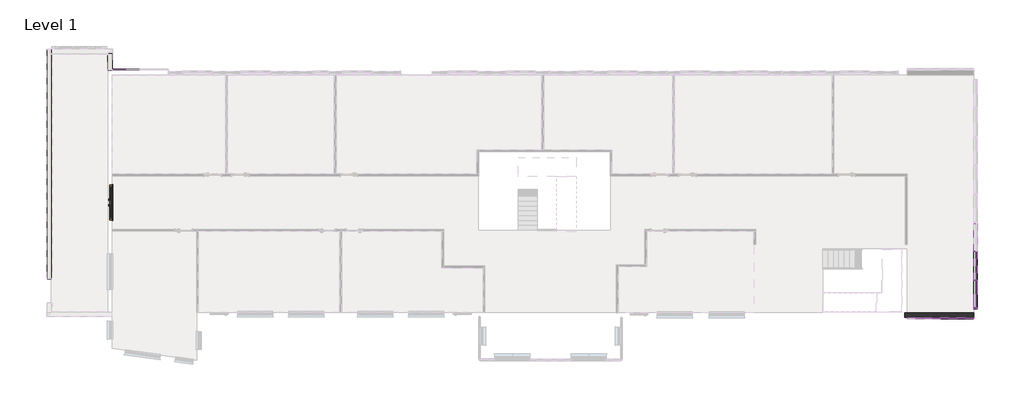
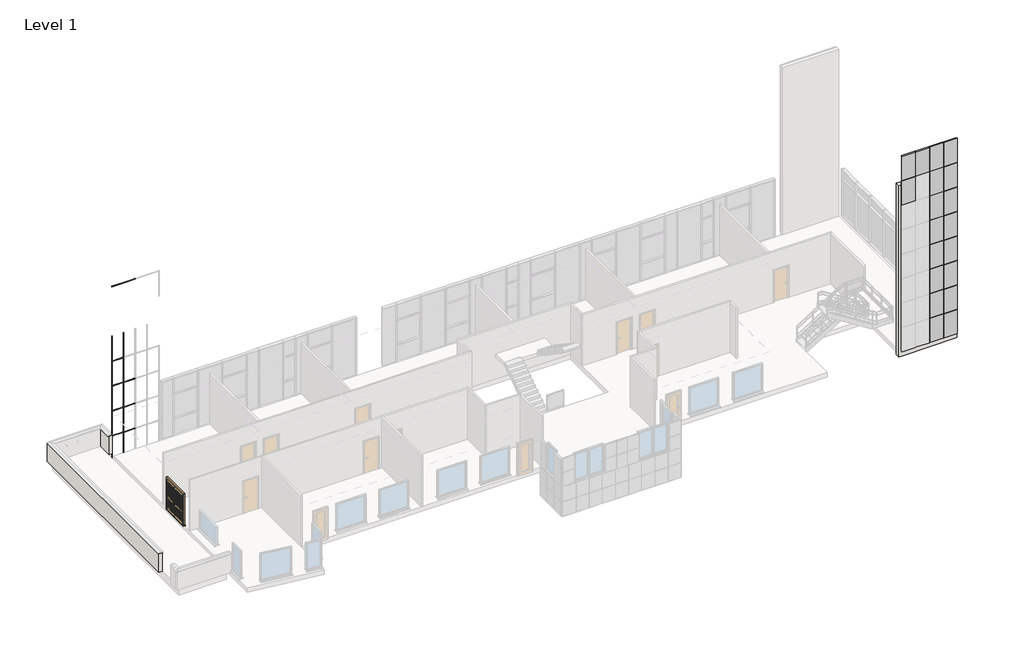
# One storey, part 3 of 10: 83 members, 23 plates, 3 walls, 1 door.
"""IFC4 building model written with IfcOpenShell, lengths in millimetres."""

from ifc_helpers import new_model, si_unit, frame, origin, place, context, project, spatial, polyline, outline, extrude, faceted_brep, transform, mapped, element, save
from components import doors_extdbl_louvre_w_transome_1810x2110mm_eca85ab6, rectangular_mullion_25x25mm_c4f882d5, rectangular_mullion_25x25mm_bd52b051, rectangular_mullion_25x25mm_aa09272d, rectangular_mullion_25x25mm_87b81b05, rectangular_mullion_25x25mm_c838776f, rectangular_mullion_25x25mm_c524c6a9, rectangular_mullion_25x25mm_a3ff25c1, rectangular_mullion_25x25mm_a7b21d2d, rectangular_mullion_25x25mm_c63ed219, rectangular_mullion_25x25mm_d2893cce, rectangular_mullion_25x25mm_a2025cdc, rectangular_mullion_25x25mm_730bac77, rectangular_mullion_25x25mm_b0a37639, rectangular_mullion_50x180mm_b21090a6, rectangular_mullion_50x180mm_c0bd3b18, rectangular_mullion_50x180mm_ec7f3dde, rectangular_mullion_50x180mm_ee9895d7, rectangular_mullion_50x180mm_69a7fca8, rectangular_mullion_50x180mm_43fab6d0, rectangular_mullion_50x180mm_84521c55, rectangular_mullion_50x180mm_f9fd6882, curtain_panels_solid_solid_panel_green_532d5a67, system_panel_glazed_7f1c0332, system_panel_glazed_68cc8840, system_panel_glazed_53acddae, system_panel_glazed_262eb8f8

model = new_model("IFC4")

# Units and contexts
model_context = context("Model", 3, world=origin())
ifc_project = project(units=[si_unit("LENGTHUNIT", "METRE", prefix="MILLI")], contexts=[model_context])

# Site, building, storey
site = spatial("IfcSite", under=ifc_project)
building = spatial("IfcBuilding", under=site)
storey = spatial("IfcBuildingStorey", under=building, Name="Level 1", Elevation=3750.0)

# Door
placement = place(None, origin())
doors_extdbl_louvre_w_transome_1810x2110mm_shape = doors_extdbl_louvre_w_transome_1810x2110mm_eca85ab6(model_context)
element("IfcDoor", 1, ObjectType="Doors_ExtDbl_Louvre_w-Transome : 1810x2110mm", at=placement, inside=storey, context=model_context, shape_type="MappedRepresentation", body=[
    mapped(doors_extdbl_louvre_w_transome_1810x2110mm_shape, transform((-1536.7223222, 2413.8986039, 3750.0), x_axis=(0.0, -1.0, 0.0), y_axis=(1.0, 0.0, 0.0), z_axis=(0.0, 0.0, 1.0))),
])

# Members
rectangular_mullion_25x25mm_shape = rectangular_mullion_25x25mm_c4f882d5(model_context)
element("IfcMember", 2, ObjectType="Rectangular Mullion : 25x25mm", at=placement, inside=storey, context=model_context, shape_type="MappedRepresentation", body=[
    mapped(rectangular_mullion_25x25mm_shape, transform((42240.5442365, -3560.0053409, 5353.125), x_axis=(0.0, 0.0, 1.0), y_axis=(0.0, 1.0, 0.0), z_axis=(-1.0, 0.0, 0.0))),
])
element("IfcMember", 3, ObjectType="Rectangular Mullion : 25x25mm", at=placement, inside=storey, context=model_context, shape_type="MappedRepresentation", body=[
    mapped(rectangular_mullion_25x25mm_shape, transform((41387.2942367, -3560.0053409, 5353.125), x_axis=(0.0, 0.0, 1.0), y_axis=(0.0, 1.0, 0.0), z_axis=(-1.0, 0.0, 0.0))),
])
element("IfcMember", 4, ObjectType="Rectangular Mullion : 25x25mm", at=placement, inside=storey, context=model_context, shape_type="MappedRepresentation", body=[
    mapped(rectangular_mullion_25x25mm_shape, transform((42240.5442365, -3560.0053409, 6943.75), x_axis=(0.0, 0.0, 1.0), y_axis=(0.0, 1.0, 0.0), z_axis=(-1.0, 0.0, 0.0))),
])
element("IfcMember", 5, ObjectType="Rectangular Mullion : 25x25mm", at=placement, inside=storey, context=model_context, shape_type="MappedRepresentation", body=[
    mapped(rectangular_mullion_25x25mm_shape, transform((41387.2942367, -3560.0053409, 6943.75), x_axis=(0.0, 0.0, 1.0), y_axis=(0.0, 1.0, 0.0), z_axis=(-1.0, 0.0, 0.0))),
])
element("IfcMember", 6, ObjectType="Rectangular Mullion : 25x25mm", at=placement, inside=storey, context=model_context, shape_type="MappedRepresentation", body=[
    mapped(rectangular_mullion_25x25mm_shape, transform((42240.5442365, -3560.0053409, 8534.375), x_axis=(0.0, 0.0, 1.0), y_axis=(0.0, 1.0, 0.0), z_axis=(-1.0, 0.0, 0.0))),
])
element("IfcMember", 7, ObjectType="Rectangular Mullion : 25x25mm", at=placement, inside=storey, context=model_context, shape_type="MappedRepresentation", body=[
    mapped(rectangular_mullion_25x25mm_shape, transform((41387.2942367, -3560.0053409, 8534.375), x_axis=(0.0, 0.0, 1.0), y_axis=(0.0, 1.0, 0.0), z_axis=(-1.0, 0.0, 0.0))),
])
element("IfcMember", 8, ObjectType="Rectangular Mullion : 25x25mm", at=placement, inside=storey, context=model_context, shape_type="MappedRepresentation", body=[
    mapped(rectangular_mullion_25x25mm_shape, transform((40534.0442368, -3560.0053409, 8534.375), x_axis=(0.0, 0.0, 1.0), y_axis=(0.0, 1.0, 0.0), z_axis=(-1.0, 0.0, 0.0))),
])
element("IfcMember", 9, ObjectType="Rectangular Mullion : 25x25mm", at=placement, inside=storey, context=model_context, shape_type="MappedRepresentation", body=[
    mapped(rectangular_mullion_25x25mm_shape, transform((42240.5442365, -3560.0053409, 10125.0), x_axis=(0.0, 0.0, 1.0), y_axis=(0.0, 1.0, 0.0), z_axis=(-1.0, 0.0, 0.0))),
])
element("IfcMember", 10, ObjectType="Rectangular Mullion : 25x25mm", at=placement, inside=storey, context=model_context, shape_type="MappedRepresentation", body=[
    mapped(rectangular_mullion_25x25mm_shape, transform((41387.2942367, -3560.0053409, 10125.0), x_axis=(0.0, 0.0, 1.0), y_axis=(0.0, 1.0, 0.0), z_axis=(-1.0, 0.0, 0.0))),
])
element("IfcMember", 11, ObjectType="Rectangular Mullion : 25x25mm", at=placement, inside=storey, context=model_context, shape_type="MappedRepresentation", body=[
    mapped(rectangular_mullion_25x25mm_shape, transform((40534.0442368, -3560.0053409, 10125.0), x_axis=(0.0, 0.0, 1.0), y_axis=(0.0, 1.0, 0.0), z_axis=(-1.0, 0.0, 0.0))),
])
element("IfcMember", 12, ObjectType="Rectangular Mullion : 25x25mm", at=placement, inside=storey, context=model_context, shape_type="MappedRepresentation", body=[
    mapped(rectangular_mullion_25x25mm_shape, transform((42240.5442365, -3560.0053409, 11715.625), x_axis=(0.0, 0.0, 1.0), y_axis=(0.0, 1.0, 0.0), z_axis=(-1.0, 0.0, 0.0))),
])
element("IfcMember", 13, ObjectType="Rectangular Mullion : 25x25mm", at=placement, inside=storey, context=model_context, shape_type="MappedRepresentation", body=[
    mapped(rectangular_mullion_25x25mm_shape, transform((41387.2942367, -3560.0053409, 11715.625), x_axis=(0.0, 0.0, 1.0), y_axis=(0.0, 1.0, 0.0), z_axis=(-1.0, 0.0, 0.0))),
])
element("IfcMember", 14, ObjectType="Rectangular Mullion : 25x25mm", at=placement, inside=storey, context=model_context, shape_type="MappedRepresentation", body=[
    mapped(rectangular_mullion_25x25mm_shape, transform((40534.0442368, -3560.0053409, 11715.625), x_axis=(0.0, 0.0, 1.0), y_axis=(0.0, 1.0, 0.0), z_axis=(-1.0, 0.0, 0.0))),
])
element("IfcMember", 15, ObjectType="Rectangular Mullion : 25x25mm", at=placement, inside=storey, context=model_context, shape_type="MappedRepresentation", body=[
    mapped(rectangular_mullion_25x25mm_shape, transform((42240.5442365, -3560.0053409, 13306.25), x_axis=(0.0, 0.0, 1.0), y_axis=(0.0, 1.0, 0.0), z_axis=(-1.0, 0.0, 0.0))),
])
element("IfcMember", 16, ObjectType="Rectangular Mullion : 25x25mm", at=placement, inside=storey, context=model_context, shape_type="MappedRepresentation", body=[
    mapped(rectangular_mullion_25x25mm_shape, transform((41387.2942367, -3560.0053409, 13306.25), x_axis=(0.0, 0.0, 1.0), y_axis=(0.0, 1.0, 0.0), z_axis=(-1.0, 0.0, 0.0))),
])
element("IfcMember", 17, ObjectType="Rectangular Mullion : 25x25mm", at=placement, inside=storey, context=model_context, shape_type="MappedRepresentation", body=[
    mapped(rectangular_mullion_25x25mm_shape, transform((40534.0442368, -3560.0053409, 13306.25), x_axis=(0.0, 0.0, 1.0), y_axis=(0.0, 1.0, 0.0), z_axis=(-1.0, 0.0, 0.0))),
])
element("IfcMember", 18, ObjectType="Rectangular Mullion : 25x25mm", at=placement, inside=storey, context=model_context, shape_type="MappedRepresentation", body=[
    mapped(rectangular_mullion_25x25mm_shape, transform((42240.5442365, -3560.0053409, 14896.875), x_axis=(0.0, 0.0, 1.0), y_axis=(0.0, 1.0, 0.0), z_axis=(-1.0, 0.0, 0.0))),
])
element("IfcMember", 19, ObjectType="Rectangular Mullion : 25x25mm", at=placement, inside=storey, context=model_context, shape_type="MappedRepresentation", body=[
    mapped(rectangular_mullion_25x25mm_shape, transform((41387.2942367, -3560.0053409, 14896.875), x_axis=(0.0, 0.0, 1.0), y_axis=(0.0, 1.0, 0.0), z_axis=(-1.0, 0.0, 0.0))),
])
element("IfcMember", 20, ObjectType="Rectangular Mullion : 25x25mm", at=placement, inside=storey, context=model_context, shape_type="MappedRepresentation", body=[
    mapped(rectangular_mullion_25x25mm_shape, transform((40534.0442368, -3560.0053409, 14896.875), x_axis=(0.0, 0.0, 1.0), y_axis=(0.0, 1.0, 0.0), z_axis=(-1.0, 0.0, 0.0))),
])
rectangular_mullion_25x25mm_2_shape = rectangular_mullion_25x25mm_bd52b051(model_context)
element("IfcMember", 21, ObjectType="Rectangular Mullion : 25x25mm", at=placement, inside=storey, context=model_context, shape_type="MappedRepresentation", body=[
    mapped(rectangular_mullion_25x25mm_2_shape, transform((-1429.2223222, 9282.4946591, 14600.0), x_axis=(0.0, 0.0, 1.0), y_axis=(0.0, 1.0, 0.0), z_axis=(-1.0, 0.0, 0.0))),
])
rectangular_mullion_25x25mm_3_shape = rectangular_mullion_25x25mm_aa09272d(model_context)
element("IfcMember", 22, ObjectType="Rectangular Mullion : 25x25mm", at=placement, inside=storey, context=model_context, shape_type="MappedRepresentation", body=[
    mapped(rectangular_mullion_25x25mm_3_shape, transform((-714.2181823, 9282.4946591, 14600.0), x_axis=(0.0, 0.0, 1.0), y_axis=(0.0, 1.0, 0.0), z_axis=(-1.0, 0.0, 0.0))),
])
element("IfcMember", 23, ObjectType="Rectangular Mullion : 25x25mm", at=placement, inside=storey, context=model_context, shape_type="MappedRepresentation", body=[
    mapped(rectangular_mullion_25x25mm_2_shape, transform((-714.2181823, 9282.4946591, 0.0), x_axis=(0.0, 0.0, -1.0), y_axis=(0.0, 1.0, 0.0), z_axis=(1.0, 0.0, 0.0))),
])
rectangular_mullion_25x25mm_4_shape = rectangular_mullion_25x25mm_87b81b05(model_context)
element("IfcMember", 24, ObjectType="Rectangular Mullion : 25x25mm", at=placement, inside=storey, context=model_context, shape_type="MappedRepresentation", body=[
    mapped(rectangular_mullion_25x25mm_4_shape, transform((-701.7181823, 9282.4946591, 1631.9444444), x_axis=(0.0, 0.0, 1.0), y_axis=(0.0, 1.0, 0.0), z_axis=(-1.0, 0.0, 0.0))),
])
element("IfcMember", 25, ObjectType="Rectangular Mullion : 25x25mm", at=placement, inside=storey, context=model_context, shape_type="MappedRepresentation", body=[
    mapped(rectangular_mullion_25x25mm_4_shape, transform((-701.7181823, 9282.4946591, 3251.3888889), x_axis=(0.0, 0.0, 1.0), y_axis=(0.0, 1.0, 0.0), z_axis=(-1.0, 0.0, 0.0))),
])
element("IfcMember", 26, ObjectType="Rectangular Mullion : 25x25mm", at=placement, inside=storey, context=model_context, shape_type="MappedRepresentation", body=[
    mapped(rectangular_mullion_25x25mm_4_shape, transform((-701.7181823, 9282.4946591, 4870.8333333), x_axis=(0.0, 0.0, 1.0), y_axis=(0.0, 1.0, 0.0), z_axis=(-1.0, 0.0, 0.0))),
])
element("IfcMember", 27, ObjectType="Rectangular Mullion : 25x25mm", at=placement, inside=storey, context=model_context, shape_type="MappedRepresentation", body=[
    mapped(rectangular_mullion_25x25mm_4_shape, transform((-701.7181823, 9282.4946591, 6490.2777778), x_axis=(0.0, 0.0, 1.0), y_axis=(0.0, 1.0, 0.0), z_axis=(-1.0, 0.0, 0.0))),
])
element("IfcMember", 28, ObjectType="Rectangular Mullion : 25x25mm", at=placement, inside=storey, context=model_context, shape_type="MappedRepresentation", body=[
    mapped(rectangular_mullion_25x25mm_4_shape, transform((-701.7181823, 9282.4946591, 8109.7222222), x_axis=(0.0, 0.0, 1.0), y_axis=(0.0, 1.0, 0.0), z_axis=(-1.0, 0.0, 0.0))),
])
rectangular_mullion_25x25mm_5_shape = rectangular_mullion_25x25mm_c838776f(model_context)
element("IfcMember", 29, ObjectType="Rectangular Mullion : 25x25mm", at=placement, inside=storey, context=model_context, shape_type="MappedRepresentation", body=[
    mapped(rectangular_mullion_25x25mm_5_shape, transform((-1404.2223222, 9282.4946591, 1631.9444444), x_axis=(0.0, 0.0, 1.0), y_axis=(0.0, 1.0, 0.0), z_axis=(-1.0, 0.0, 0.0))),
])
element("IfcMember", 30, ObjectType="Rectangular Mullion : 25x25mm", at=placement, inside=storey, context=model_context, shape_type="MappedRepresentation", body=[
    mapped(rectangular_mullion_25x25mm_5_shape, transform((-1404.2223222, 9282.4946591, 3251.3888889), x_axis=(0.0, 0.0, 1.0), y_axis=(0.0, 1.0, 0.0), z_axis=(-1.0, 0.0, 0.0))),
])
element("IfcMember", 31, ObjectType="Rectangular Mullion : 25x25mm", at=placement, inside=storey, context=model_context, shape_type="MappedRepresentation", body=[
    mapped(rectangular_mullion_25x25mm_5_shape, transform((-1404.2223222, 9282.4946591, 4870.8333333), x_axis=(0.0, 0.0, 1.0), y_axis=(0.0, 1.0, 0.0), z_axis=(-1.0, 0.0, 0.0))),
])
element("IfcMember", 32, ObjectType="Rectangular Mullion : 25x25mm", at=placement, inside=storey, context=model_context, shape_type="MappedRepresentation", body=[
    mapped(rectangular_mullion_25x25mm_5_shape, transform((-1404.2223222, 9282.4946591, 6490.2777778), x_axis=(0.0, 0.0, 1.0), y_axis=(0.0, 1.0, 0.0), z_axis=(-1.0, 0.0, 0.0))),
])
element("IfcMember", 33, ObjectType="Rectangular Mullion : 25x25mm", at=placement, inside=storey, context=model_context, shape_type="MappedRepresentation", body=[
    mapped(rectangular_mullion_25x25mm_5_shape, transform((-1404.2223222, 9282.4946591, 8109.7222222), x_axis=(0.0, 0.0, 1.0), y_axis=(0.0, 1.0, 0.0), z_axis=(-1.0, 0.0, 0.0))),
])
element("IfcMember", 34, ObjectType="Rectangular Mullion : 25x25mm", at=placement, inside=storey, context=model_context, shape_type="MappedRepresentation", body=[
    mapped(rectangular_mullion_25x25mm_5_shape, transform((-1404.2223222, 9282.4946591, 9729.1666667), x_axis=(0.0, 0.0, 1.0), y_axis=(0.0, 1.0, 0.0), z_axis=(-1.0, 0.0, 0.0))),
])
rectangular_mullion_25x25mm_6_shape = rectangular_mullion_25x25mm_c524c6a9(model_context)
element("IfcMember", 35, ObjectType="Rectangular Mullion : 25x25mm", at=placement, inside=storey, context=model_context, shape_type="MappedRepresentation", body=[
    mapped(rectangular_mullion_25x25mm_6_shape, transform((-714.2181823, 9282.4946591, 25.0), x_axis=(-1.0, 0.0, 0.0), y_axis=(0.0, 1.0, 0.0), z_axis=(0.0, 0.0, -1.0))),
])
rectangular_mullion_25x25mm_7_shape = rectangular_mullion_25x25mm_a3ff25c1(model_context)
element("IfcMember", 36, ObjectType="Rectangular Mullion : 25x25mm", at=placement, inside=storey, context=model_context, shape_type="MappedRepresentation", body=[
    mapped(rectangular_mullion_25x25mm_7_shape, transform((-714.2181823, 9282.4946591, 1631.9444444), x_axis=(-1.0, 0.0, 0.0), y_axis=(0.0, 1.0, 0.0), z_axis=(0.0, 0.0, -1.0))),
])
element("IfcMember", 37, ObjectType="Rectangular Mullion : 25x25mm", at=placement, inside=storey, context=model_context, shape_type="MappedRepresentation", body=[
    mapped(rectangular_mullion_25x25mm_7_shape, transform((-714.2181823, 9282.4946591, 3251.3888889), x_axis=(-1.0, 0.0, 0.0), y_axis=(0.0, 1.0, 0.0), z_axis=(0.0, 0.0, -1.0))),
])
element("IfcMember", 38, ObjectType="Rectangular Mullion : 25x25mm", at=placement, inside=storey, context=model_context, shape_type="MappedRepresentation", body=[
    mapped(rectangular_mullion_25x25mm_7_shape, transform((-714.2181823, 9282.4946591, 4870.8333333), x_axis=(-1.0, 0.0, 0.0), y_axis=(0.0, 1.0, 0.0), z_axis=(0.0, 0.0, -1.0))),
])
element("IfcMember", 39, ObjectType="Rectangular Mullion : 25x25mm", at=placement, inside=storey, context=model_context, shape_type="MappedRepresentation", body=[
    mapped(rectangular_mullion_25x25mm_7_shape, transform((-714.2181823, 9282.4946591, 6490.2777778), x_axis=(-1.0, 0.0, 0.0), y_axis=(0.0, 1.0, 0.0), z_axis=(0.0, 0.0, -1.0))),
])
element("IfcMember", 40, ObjectType="Rectangular Mullion : 25x25mm", at=placement, inside=storey, context=model_context, shape_type="MappedRepresentation", body=[
    mapped(rectangular_mullion_25x25mm_7_shape, transform((-714.2181823, 9282.4946591, 8109.7222222), x_axis=(-1.0, 0.0, 0.0), y_axis=(0.0, 1.0, 0.0), z_axis=(0.0, 0.0, -1.0))),
])
element("IfcMember", 41, ObjectType="Rectangular Mullion : 25x25mm", at=placement, inside=storey, context=model_context, shape_type="MappedRepresentation", body=[
    mapped(rectangular_mullion_25x25mm_7_shape, transform((-714.2181823, 9282.4946591, 9729.1666667), x_axis=(-1.0, 0.0, 0.0), y_axis=(0.0, 1.0, 0.0), z_axis=(0.0, 0.0, -1.0))),
])
rectangular_mullion_25x25mm_8_shape = rectangular_mullion_25x25mm_a7b21d2d(model_context)
element("IfcMember", 42, ObjectType="Rectangular Mullion : 25x25mm", at=placement, inside=storey, context=model_context, shape_type="MappedRepresentation", body=[
    mapped(rectangular_mullion_25x25mm_8_shape, transform((-1429.2223222, 9282.4946591, 25.0), x_axis=(-1.0, 0.0, 0.0), y_axis=(0.0, 1.0, 0.0), z_axis=(0.0, 0.0, -1.0))),
])
rectangular_mullion_25x25mm_9_shape = rectangular_mullion_25x25mm_c63ed219(model_context)
element("IfcMember", 43, ObjectType="Rectangular Mullion : 25x25mm", at=placement, inside=storey, context=model_context, shape_type="MappedRepresentation", body=[
    mapped(rectangular_mullion_25x25mm_9_shape, transform((-1429.2223222, 9282.4946591, 1631.9444444), x_axis=(-1.0, 0.0, 0.0), y_axis=(0.0, 1.0, 0.0), z_axis=(0.0, 0.0, -1.0))),
])
element("IfcMember", 44, ObjectType="Rectangular Mullion : 25x25mm", at=placement, inside=storey, context=model_context, shape_type="MappedRepresentation", body=[
    mapped(rectangular_mullion_25x25mm_9_shape, transform((-1429.2223222, 9282.4946591, 3251.3888889), x_axis=(-1.0, 0.0, 0.0), y_axis=(0.0, 1.0, 0.0), z_axis=(0.0, 0.0, -1.0))),
])
element("IfcMember", 45, ObjectType="Rectangular Mullion : 25x25mm", at=placement, inside=storey, context=model_context, shape_type="MappedRepresentation", body=[
    mapped(rectangular_mullion_25x25mm_9_shape, transform((-1429.2223222, 9282.4946591, 4870.8333333), x_axis=(-1.0, 0.0, 0.0), y_axis=(0.0, 1.0, 0.0), z_axis=(0.0, 0.0, -1.0))),
])
element("IfcMember", 46, ObjectType="Rectangular Mullion : 25x25mm", at=placement, inside=storey, context=model_context, shape_type="MappedRepresentation", body=[
    mapped(rectangular_mullion_25x25mm_9_shape, transform((-1429.2223222, 9282.4946591, 6490.2777778), x_axis=(-1.0, 0.0, 0.0), y_axis=(0.0, 1.0, 0.0), z_axis=(0.0, 0.0, -1.0))),
])
element("IfcMember", 47, ObjectType="Rectangular Mullion : 25x25mm", at=placement, inside=storey, context=model_context, shape_type="MappedRepresentation", body=[
    mapped(rectangular_mullion_25x25mm_9_shape, transform((-1429.2223222, 9282.4946591, 8109.7222222), x_axis=(-1.0, 0.0, 0.0), y_axis=(0.0, 1.0, 0.0), z_axis=(0.0, 0.0, -1.0))),
])
element("IfcMember", 48, ObjectType="Rectangular Mullion : 25x25mm", at=placement, inside=storey, context=model_context, shape_type="MappedRepresentation", body=[
    mapped(rectangular_mullion_25x25mm_9_shape, transform((-1429.2223222, 9282.4946591, 9729.1666667), x_axis=(-1.0, 0.0, 0.0), y_axis=(0.0, 1.0, 0.0), z_axis=(0.0, 0.0, -1.0))),
])
rectangular_mullion_25x25mm_10_shape = rectangular_mullion_25x25mm_d2893cce(model_context)
element("IfcMember", 49, ObjectType="Rectangular Mullion : 25x25mm", at=placement, inside=storey, context=model_context, shape_type="MappedRepresentation", body=[
    mapped(rectangular_mullion_25x25mm_10_shape, transform((42228.0442365, -3560.0053409, 5353.125), x_axis=(-1.0, 0.0, 0.0), y_axis=(0.0, 1.0, 0.0), z_axis=(0.0, 0.0, -1.0))),
])
element("IfcMember", 50, ObjectType="Rectangular Mullion : 25x25mm", at=placement, inside=storey, context=model_context, shape_type="MappedRepresentation", body=[
    mapped(rectangular_mullion_25x25mm_10_shape, transform((42228.0442365, -3560.0053409, 6943.75), x_axis=(-1.0, 0.0, 0.0), y_axis=(0.0, 1.0, 0.0), z_axis=(0.0, 0.0, -1.0))),
])
element("IfcMember", 51, ObjectType="Rectangular Mullion : 25x25mm", at=placement, inside=storey, context=model_context, shape_type="MappedRepresentation", body=[
    mapped(rectangular_mullion_25x25mm_10_shape, transform((41374.7942367, -3560.0053409, 5353.125), x_axis=(-1.0, 0.0, 0.0), y_axis=(0.0, 1.0, 0.0), z_axis=(0.0, 0.0, -1.0))),
])
element("IfcMember", 52, ObjectType="Rectangular Mullion : 25x25mm", at=placement, inside=storey, context=model_context, shape_type="MappedRepresentation", body=[
    mapped(rectangular_mullion_25x25mm_10_shape, transform((41374.7942367, -3560.0053409, 6943.75), x_axis=(-1.0, 0.0, 0.0), y_axis=(0.0, 1.0, 0.0), z_axis=(0.0, 0.0, -1.0))),
])
element("IfcMember", 53, ObjectType="Rectangular Mullion : 25x25mm", at=placement, inside=storey, context=model_context, shape_type="MappedRepresentation", body=[
    mapped(rectangular_mullion_25x25mm_10_shape, transform((42228.0442365, -3560.0053409, 8534.375), x_axis=(-1.0, 0.0, 0.0), y_axis=(0.0, 1.0, 0.0), z_axis=(0.0, 0.0, -1.0))),
])
element("IfcMember", 54, ObjectType="Rectangular Mullion : 25x25mm", at=placement, inside=storey, context=model_context, shape_type="MappedRepresentation", body=[
    mapped(rectangular_mullion_25x25mm_10_shape, transform((42228.0442365, -3560.0053409, 10125.0), x_axis=(-1.0, 0.0, 0.0), y_axis=(0.0, 1.0, 0.0), z_axis=(0.0, 0.0, -1.0))),
])
element("IfcMember", 55, ObjectType="Rectangular Mullion : 25x25mm", at=placement, inside=storey, context=model_context, shape_type="MappedRepresentation", body=[
    mapped(rectangular_mullion_25x25mm_10_shape, transform((42228.0442365, -3560.0053409, 11715.625), x_axis=(-1.0, 0.0, 0.0), y_axis=(0.0, 1.0, 0.0), z_axis=(0.0, 0.0, -1.0))),
])
element("IfcMember", 56, ObjectType="Rectangular Mullion : 25x25mm", at=placement, inside=storey, context=model_context, shape_type="MappedRepresentation", body=[
    mapped(rectangular_mullion_25x25mm_10_shape, transform((42228.0442365, -3560.0053409, 13306.25), x_axis=(-1.0, 0.0, 0.0), y_axis=(0.0, 1.0, 0.0), z_axis=(0.0, 0.0, -1.0))),
])
element("IfcMember", 57, ObjectType="Rectangular Mullion : 25x25mm", at=placement, inside=storey, context=model_context, shape_type="MappedRepresentation", body=[
    mapped(rectangular_mullion_25x25mm_10_shape, transform((41374.7942367, -3560.0053409, 8534.375), x_axis=(-1.0, 0.0, 0.0), y_axis=(0.0, 1.0, 0.0), z_axis=(0.0, 0.0, -1.0))),
])
element("IfcMember", 58, ObjectType="Rectangular Mullion : 25x25mm", at=placement, inside=storey, context=model_context, shape_type="MappedRepresentation", body=[
    mapped(rectangular_mullion_25x25mm_10_shape, transform((41374.7942367, -3560.0053409, 10125.0), x_axis=(-1.0, 0.0, 0.0), y_axis=(0.0, 1.0, 0.0), z_axis=(0.0, 0.0, -1.0))),
])
element("IfcMember", 59, ObjectType="Rectangular Mullion : 25x25mm", at=placement, inside=storey, context=model_context, shape_type="MappedRepresentation", body=[
    mapped(rectangular_mullion_25x25mm_10_shape, transform((41374.7942367, -3560.0053409, 11715.625), x_axis=(-1.0, 0.0, 0.0), y_axis=(0.0, 1.0, 0.0), z_axis=(0.0, 0.0, -1.0))),
])
element("IfcMember", 60, ObjectType="Rectangular Mullion : 25x25mm", at=placement, inside=storey, context=model_context, shape_type="MappedRepresentation", body=[
    mapped(rectangular_mullion_25x25mm_10_shape, transform((41374.7942367, -3560.0053409, 13306.25), x_axis=(-1.0, 0.0, 0.0), y_axis=(0.0, 1.0, 0.0), z_axis=(0.0, 0.0, -1.0))),
])
element("IfcMember", 61, ObjectType="Rectangular Mullion : 25x25mm", at=placement, inside=storey, context=model_context, shape_type="MappedRepresentation", body=[
    mapped(rectangular_mullion_25x25mm_10_shape, transform((40521.5442368, -3560.0053409, 8534.375), x_axis=(-1.0, 0.0, 0.0), y_axis=(0.0, 1.0, 0.0), z_axis=(0.0, 0.0, -1.0))),
])
element("IfcMember", 62, ObjectType="Rectangular Mullion : 25x25mm", at=placement, inside=storey, context=model_context, shape_type="MappedRepresentation", body=[
    mapped(rectangular_mullion_25x25mm_10_shape, transform((40521.5442368, -3560.0053409, 10125.0), x_axis=(-1.0, 0.0, 0.0), y_axis=(0.0, 1.0, 0.0), z_axis=(0.0, 0.0, -1.0))),
])
element("IfcMember", 63, ObjectType="Rectangular Mullion : 25x25mm", at=placement, inside=storey, context=model_context, shape_type="MappedRepresentation", body=[
    mapped(rectangular_mullion_25x25mm_10_shape, transform((40521.5442368, -3560.0053409, 11715.625), x_axis=(-1.0, 0.0, 0.0), y_axis=(0.0, 1.0, 0.0), z_axis=(0.0, 0.0, -1.0))),
])
element("IfcMember", 64, ObjectType="Rectangular Mullion : 25x25mm", at=placement, inside=storey, context=model_context, shape_type="MappedRepresentation", body=[
    mapped(rectangular_mullion_25x25mm_10_shape, transform((40521.5442368, -3560.0053409, 13306.25), x_axis=(-1.0, 0.0, 0.0), y_axis=(0.0, 1.0, 0.0), z_axis=(0.0, 0.0, -1.0))),
])
rectangular_mullion_25x25mm_11_shape = rectangular_mullion_25x25mm_a2025cdc(model_context)
element("IfcMember", 65, ObjectType="Rectangular Mullion : 25x25mm", at=placement, inside=storey, context=model_context, shape_type="MappedRepresentation", body=[
    mapped(rectangular_mullion_25x25mm_11_shape, transform((43093.7942367, -3560.0053409, 5353.125), x_axis=(1.0, 0.0, 0.0), y_axis=(0.0, 1.0, 0.0), z_axis=(0.0, 0.0, 1.0))),
])
rectangular_mullion_25x25mm_12_shape = rectangular_mullion_25x25mm_730bac77(model_context)
element("IfcMember", 66, ObjectType="Rectangular Mullion : 25x25mm", at=placement, inside=storey, context=model_context, shape_type="MappedRepresentation", body=[
    mapped(rectangular_mullion_25x25mm_12_shape, transform((43093.7942367, -3560.0053409, 6943.75), x_axis=(1.0, 0.0, 0.0), y_axis=(0.0, 1.0, 0.0), z_axis=(0.0, 0.0, 1.0))),
])
element("IfcMember", 67, ObjectType="Rectangular Mullion : 25x25mm", at=placement, inside=storey, context=model_context, shape_type="MappedRepresentation", body=[
    mapped(rectangular_mullion_25x25mm_12_shape, transform((43093.7942367, -3560.0053409, 8534.375), x_axis=(1.0, 0.0, 0.0), y_axis=(0.0, 1.0, 0.0), z_axis=(0.0, 0.0, 1.0))),
])
element("IfcMember", 68, ObjectType="Rectangular Mullion : 25x25mm", at=placement, inside=storey, context=model_context, shape_type="MappedRepresentation", body=[
    mapped(rectangular_mullion_25x25mm_12_shape, transform((43093.7942367, -3560.0053409, 10125.0), x_axis=(1.0, 0.0, 0.0), y_axis=(0.0, 1.0, 0.0), z_axis=(0.0, 0.0, 1.0))),
])
element("IfcMember", 69, ObjectType="Rectangular Mullion : 25x25mm", at=placement, inside=storey, context=model_context, shape_type="MappedRepresentation", body=[
    mapped(rectangular_mullion_25x25mm_12_shape, transform((43093.7942367, -3560.0053409, 11715.625), x_axis=(1.0, 0.0, 0.0), y_axis=(0.0, 1.0, 0.0), z_axis=(0.0, 0.0, 1.0))),
])
element("IfcMember", 70, ObjectType="Rectangular Mullion : 25x25mm", at=placement, inside=storey, context=model_context, shape_type="MappedRepresentation", body=[
    mapped(rectangular_mullion_25x25mm_12_shape, transform((43093.7942367, -3560.0053409, 13306.25), x_axis=(1.0, 0.0, 0.0), y_axis=(0.0, 1.0, 0.0), z_axis=(0.0, 0.0, 1.0))),
])
element("IfcMember", 71, ObjectType="Rectangular Mullion : 25x25mm", at=placement, inside=storey, context=model_context, shape_type="MappedRepresentation", body=[
    mapped(rectangular_mullion_25x25mm_12_shape, transform((43093.7942367, -3560.0053409, 14896.875), x_axis=(1.0, 0.0, 0.0), y_axis=(0.0, 1.0, 0.0), z_axis=(0.0, 0.0, 1.0))),
])
rectangular_mullion_25x25mm_13_shape = rectangular_mullion_25x25mm_b0a37639(model_context)
element("IfcMember", 72, ObjectType="Rectangular Mullion : 25x25mm", at=placement, inside=storey, context=model_context, shape_type="MappedRepresentation", body=[
    mapped(rectangular_mullion_25x25mm_13_shape, transform((42228.0442365, -3560.0053409, 14896.875), x_axis=(-1.0, 0.0, 0.0), y_axis=(0.0, 1.0, 0.0), z_axis=(0.0, 0.0, -1.0))),
])
element("IfcMember", 73, ObjectType="Rectangular Mullion : 25x25mm", at=placement, inside=storey, context=model_context, shape_type="MappedRepresentation", body=[
    mapped(rectangular_mullion_25x25mm_13_shape, transform((41374.7942367, -3560.0053409, 14896.875), x_axis=(-1.0, 0.0, 0.0), y_axis=(0.0, 1.0, 0.0), z_axis=(0.0, 0.0, -1.0))),
])
element("IfcMember", 74, ObjectType="Rectangular Mullion : 25x25mm", at=placement, inside=storey, context=model_context, shape_type="MappedRepresentation", body=[
    mapped(rectangular_mullion_25x25mm_13_shape, transform((40521.5442368, -3560.0053409, 14896.875), x_axis=(-1.0, 0.0, 0.0), y_axis=(0.0, 1.0, 0.0), z_axis=(0.0, 0.0, -1.0))),
])
rectangular_mullion_50x180mm_shape = rectangular_mullion_50x180mm_b21090a6(model_context)
element("IfcMember", 75, ObjectType="Rectangular Mullion : 50x180mm", at=placement, inside=storey, context=model_context, shape_type="MappedRepresentation", body=[
    mapped(rectangular_mullion_50x180mm_shape, transform((43193.2942367, -3090.0053409, 3900.0), x_axis=(0.0, -1.0, 0.0), y_axis=(-1.0, 0.0, 0.0), z_axis=(0.0, 0.0, -1.0))),
])
rectangular_mullion_50x180mm_2_shape = rectangular_mullion_50x180mm_c0bd3b18(model_context)
element("IfcMember", 76, ObjectType="Rectangular Mullion : 50x180mm", at=placement, inside=storey, context=model_context, shape_type="MappedRepresentation", body=[
    mapped(rectangular_mullion_50x180mm_2_shape, transform((43193.2942367, -3040.0053409, 6965.0), x_axis=(0.0, 0.0, 1.0), y_axis=(-1.0, 0.0, 0.0), z_axis=(0.0, -1.0, 0.0))),
])
rectangular_mullion_50x180mm_3_shape = rectangular_mullion_50x180mm_ec7f3dde(model_context)
element("IfcMember", 77, ObjectType="Rectangular Mullion : 50x180mm", at=placement, inside=storey, context=model_context, shape_type="MappedRepresentation", body=[
    mapped(rectangular_mullion_50x180mm_3_shape, transform((43193.2942367, -124.3803407, 6300.0), x_axis=(0.0, 0.0, 1.0), y_axis=(-1.0, 0.0, 0.0), z_axis=(0.0, -1.0, 0.0))),
])
rectangular_mullion_50x180mm_4_shape = rectangular_mullion_50x180mm_ee9895d7(model_context)
element("IfcMember", 78, ObjectType="Rectangular Mullion : 50x180mm", at=placement, inside=storey, context=model_context, shape_type="MappedRepresentation", body=[
    mapped(rectangular_mullion_50x180mm_4_shape, transform((43193.2942367, -124.3803407, 6965.0), x_axis=(0.0, 0.0, 1.0), y_axis=(-1.0, 0.0, 0.0), z_axis=(0.0, -1.0, 0.0))),
])
rectangular_mullion_50x180mm_5_shape = rectangular_mullion_50x180mm_69a7fca8(model_context)
element("IfcMember", 79, ObjectType="Rectangular Mullion : 50x180mm", at=placement, inside=storey, context=model_context, shape_type="MappedRepresentation", body=[
    mapped(rectangular_mullion_50x180mm_5_shape, transform((43193.2942367, -1607.1928406, 6965.0), x_axis=(0.0, 0.0, 1.0), y_axis=(-1.0, 0.0, 0.0), z_axis=(0.0, -1.0, 0.0))),
])
element("IfcMember", 80, ObjectType="Rectangular Mullion : 50x180mm", at=placement, inside=storey, context=model_context, shape_type="MappedRepresentation", body=[
    mapped(rectangular_mullion_50x180mm_5_shape, transform((43193.2942367, -124.3803407, 3900.0), x_axis=(0.0, 0.0, -1.0), y_axis=(-1.0, 0.0, 0.0), z_axis=(0.0, 1.0, 0.0))),
])
element("IfcMember", 81, ObjectType="Rectangular Mullion : 50x180mm", at=placement, inside=storey, context=model_context, shape_type="MappedRepresentation", body=[
    mapped(rectangular_mullion_50x180mm_2_shape, transform((43193.2942367, -1607.1928406, 3900.0), x_axis=(0.0, 0.0, -1.0), y_axis=(-1.0, 0.0, 0.0), z_axis=(0.0, 1.0, 0.0))),
])
rectangular_mullion_50x180mm_6_shape = rectangular_mullion_50x180mm_43fab6d0(model_context)
element("IfcMember", 82, ObjectType="Rectangular Mullion : 50x180mm", at=placement, inside=storey, context=model_context, shape_type="MappedRepresentation", body=[
    mapped(rectangular_mullion_50x180mm_6_shape, transform((43193.2942367, -1607.1928406, 6300.0), x_axis=(0.0, 0.0, 1.0), y_axis=(-1.0, 0.0, 0.0), z_axis=(0.0, -1.0, 0.0))),
])
rectangular_mullion_50x180mm_7_shape = rectangular_mullion_50x180mm_84521c55(model_context)
element("IfcMember", 83, ObjectType="Rectangular Mullion : 50x180mm", at=placement, inside=storey, context=model_context, shape_type="MappedRepresentation", body=[
    mapped(rectangular_mullion_50x180mm_7_shape, transform((43193.2942367, -3040.0053409, 6300.0), x_axis=(0.0, 0.0, 1.0), y_axis=(-1.0, 0.0, 0.0), z_axis=(0.0, -1.0, 0.0))),
])
rectangular_mullion_50x180mm_8_shape = rectangular_mullion_50x180mm_f9fd6882(model_context)
element("IfcMember", 84, ObjectType="Rectangular Mullion : 50x180mm", at=placement, inside=storey, context=model_context, shape_type="MappedRepresentation", body=[
    mapped(rectangular_mullion_50x180mm_8_shape, transform((43193.2942367, -3090.0053409, 6300.0), x_axis=(0.0, -1.0, 0.0), y_axis=(-1.0, 0.0, 0.0), z_axis=(0.0, 0.0, -1.0))),
])

# Plates
curtain_panels_solid_solid_panel_green_shape = curtain_panels_solid_solid_panel_green_532d5a67(model_context)
element("IfcPlate", 85, ObjectType="Curtain_Panels_Solid : Solid_Panel_Green", at=placement, inside=storey, context=model_context, shape_type="MappedRepresentation", body=[
    mapped(curtain_panels_solid_solid_panel_green_shape, transform((42654.6692366, -3560.0053409, 3775.0), x_axis=(-1.0, 0.0, 0.0), y_axis=(0.0, -1.0, 0.0), z_axis=(0.0, 0.0, 1.0))),
])
element("IfcPlate", 86, ObjectType="Curtain_Panels_Solid : Solid_Panel_Green", at=placement, inside=storey, context=model_context, shape_type="MappedRepresentation", body=[
    mapped(curtain_panels_solid_solid_panel_green_shape, transform((41801.4192366, -3560.0053409, 3775.0), x_axis=(-1.0, 0.0, 0.0), y_axis=(0.0, -1.0, 0.0), z_axis=(0.0, 0.0, 1.0))),
])
element("IfcPlate", 87, ObjectType="Curtain_Panels_Solid : Solid_Panel_Green", at=placement, inside=storey, context=model_context, shape_type="MappedRepresentation", body=[
    mapped(curtain_panels_solid_solid_panel_green_shape, transform((42654.6692366, -3560.0053409, 5365.625), x_axis=(-1.0, 0.0, 0.0), y_axis=(0.0, -1.0, 0.0), z_axis=(0.0, 0.0, 1.0))),
])
element("IfcPlate", 88, ObjectType="Curtain_Panels_Solid : Solid_Panel_Green", at=placement, inside=storey, context=model_context, shape_type="MappedRepresentation", body=[
    mapped(curtain_panels_solid_solid_panel_green_shape, transform((41801.4192366, -3560.0053409, 5365.625), x_axis=(-1.0, 0.0, 0.0), y_axis=(0.0, -1.0, 0.0), z_axis=(0.0, 0.0, 1.0))),
])
element("IfcPlate", 89, ObjectType="Curtain_Panels_Solid : Solid_Panel_Green", at=placement, inside=storey, context=model_context, shape_type="MappedRepresentation", body=[
    mapped(curtain_panels_solid_solid_panel_green_shape, transform((42654.6692366, -3560.0053409, 6956.25), x_axis=(-1.0, 0.0, 0.0), y_axis=(0.0, -1.0, 0.0), z_axis=(0.0, 0.0, 1.0))),
])
element("IfcPlate", 90, ObjectType="Curtain_Panels_Solid : Solid_Panel_Green", at=placement, inside=storey, context=model_context, shape_type="MappedRepresentation", body=[
    mapped(curtain_panels_solid_solid_panel_green_shape, transform((41801.4192366, -3560.0053409, 6956.25), x_axis=(-1.0, 0.0, 0.0), y_axis=(0.0, -1.0, 0.0), z_axis=(0.0, 0.0, 1.0))),
])
element("IfcPlate", 91, ObjectType="Curtain_Panels_Solid : Solid_Panel_Green", at=placement, inside=storey, context=model_context, shape_type="MappedRepresentation", body=[
    mapped(curtain_panels_solid_solid_panel_green_shape, transform((42654.6692366, -3560.0053409, 8546.875), x_axis=(-1.0, 0.0, 0.0), y_axis=(0.0, -1.0, 0.0), z_axis=(0.0, 0.0, 1.0))),
])
element("IfcPlate", 92, ObjectType="Curtain_Panels_Solid : Solid_Panel_Green", at=placement, inside=storey, context=model_context, shape_type="MappedRepresentation", body=[
    mapped(curtain_panels_solid_solid_panel_green_shape, transform((41801.4192366, -3560.0053409, 8546.875), x_axis=(-1.0, 0.0, 0.0), y_axis=(0.0, -1.0, 0.0), z_axis=(0.0, 0.0, 1.0))),
])
element("IfcPlate", 93, ObjectType="Curtain_Panels_Solid : Solid_Panel_Green", at=placement, inside=storey, context=model_context, shape_type="MappedRepresentation", body=[
    mapped(curtain_panels_solid_solid_panel_green_shape, transform((42654.6692366, -3560.0053409, 10137.5), x_axis=(-1.0, 0.0, 0.0), y_axis=(0.0, -1.0, 0.0), z_axis=(0.0, 0.0, 1.0))),
])
element("IfcPlate", 94, ObjectType="Curtain_Panels_Solid : Solid_Panel_Green", at=placement, inside=storey, context=model_context, shape_type="MappedRepresentation", body=[
    mapped(curtain_panels_solid_solid_panel_green_shape, transform((41801.4192366, -3560.0053409, 10137.5), x_axis=(-1.0, 0.0, 0.0), y_axis=(0.0, -1.0, 0.0), z_axis=(0.0, 0.0, 1.0))),
])
element("IfcPlate", 95, ObjectType="Curtain_Panels_Solid : Solid_Panel_Green", at=placement, inside=storey, context=model_context, shape_type="MappedRepresentation", body=[
    mapped(curtain_panels_solid_solid_panel_green_shape, transform((42654.6692366, -3560.0053409, 11728.125), x_axis=(-1.0, 0.0, 0.0), y_axis=(0.0, -1.0, 0.0), z_axis=(0.0, 0.0, 1.0))),
])
element("IfcPlate", 96, ObjectType="Curtain_Panels_Solid : Solid_Panel_Green", at=placement, inside=storey, context=model_context, shape_type="MappedRepresentation", body=[
    mapped(curtain_panels_solid_solid_panel_green_shape, transform((41801.4192366, -3560.0053409, 11728.125), x_axis=(-1.0, 0.0, 0.0), y_axis=(0.0, -1.0, 0.0), z_axis=(0.0, 0.0, 1.0))),
])
element("IfcPlate", 97, ObjectType="Curtain_Panels_Solid : Solid_Panel_Green", at=placement, inside=storey, context=model_context, shape_type="MappedRepresentation", body=[
    mapped(curtain_panels_solid_solid_panel_green_shape, transform((42654.6692366, -3560.0053409, 13318.75), x_axis=(-1.0, 0.0, 0.0), y_axis=(0.0, -1.0, 0.0), z_axis=(0.0, 0.0, 1.0))),
])
element("IfcPlate", 98, ObjectType="Curtain_Panels_Solid : Solid_Panel_Green", at=placement, inside=storey, context=model_context, shape_type="MappedRepresentation", body=[
    mapped(curtain_panels_solid_solid_panel_green_shape, transform((41801.4192366, -3560.0053409, 13318.75), x_axis=(-1.0, 0.0, 0.0), y_axis=(0.0, -1.0, 0.0), z_axis=(0.0, 0.0, 1.0))),
])
element("IfcPlate", 99, ObjectType="Curtain_Panels_Solid : Solid_Panel_Green", at=placement, inside=storey, context=model_context, shape_type="MappedRepresentation", body=[
    mapped(curtain_panels_solid_solid_panel_green_shape, transform((40094.9192368, -3560.0053409, 13318.75), x_axis=(-1.0, 0.0, 0.0), y_axis=(0.0, -1.0, 0.0), z_axis=(0.0, 0.0, 1.0))),
])
element("IfcPlate", 100, ObjectType="Curtain_Panels_Solid : Solid_Panel_Green", at=placement, inside=storey, context=model_context, shape_type="MappedRepresentation", body=[
    mapped(curtain_panels_solid_solid_panel_green_shape, transform((42654.6692366, -3560.0053409, 14909.375), x_axis=(-1.0, 0.0, 0.0), y_axis=(0.0, -1.0, 0.0), z_axis=(0.0, 0.0, 1.0))),
])
element("IfcPlate", 101, ObjectType="Curtain_Panels_Solid : Solid_Panel_Green", at=placement, inside=storey, context=model_context, shape_type="MappedRepresentation", body=[
    mapped(curtain_panels_solid_solid_panel_green_shape, transform((41801.4192366, -3560.0053409, 14909.375), x_axis=(-1.0, 0.0, 0.0), y_axis=(0.0, -1.0, 0.0), z_axis=(0.0, 0.0, 1.0))),
])
element("IfcPlate", 102, ObjectType="Curtain_Panels_Solid : Solid_Panel_Green", at=placement, inside=storey, context=model_context, shape_type="MappedRepresentation", body=[
    mapped(curtain_panels_solid_solid_panel_green_shape, transform((40948.1692368, -3560.0053409, 14909.375), x_axis=(-1.0, 0.0, 0.0), y_axis=(0.0, -1.0, 0.0), z_axis=(0.0, 0.0, 1.0))),
])
element("IfcPlate", 103, ObjectType="Curtain_Panels_Solid : Solid_Panel_Green", at=placement, inside=storey, context=model_context, shape_type="MappedRepresentation", body=[
    mapped(curtain_panels_solid_solid_panel_green_shape, transform((40094.9192368, -3560.0053409, 14909.375), x_axis=(-1.0, 0.0, 0.0), y_axis=(0.0, -1.0, 0.0), z_axis=(0.0, 0.0, 1.0))),
])
system_panel_glazed_shape = system_panel_glazed_7f1c0332(model_context)
element("IfcPlate", 104, ObjectType="System Panel : Glazed", at=placement, inside=storey, context=model_context, shape_type="MappedRepresentation", body=[
    mapped(system_panel_glazed_shape, transform((43193.2942367, -2323.5990907, 3950.0), x_axis=(0.0, -1.0, 0.0), y_axis=(1.0, 0.0, 0.0), z_axis=(0.0, 0.0, 1.0))),
])
system_panel_glazed_2_shape = system_panel_glazed_68cc8840(model_context)
element("IfcPlate", 105, ObjectType="System Panel : Glazed", at=placement, inside=storey, context=model_context, shape_type="MappedRepresentation", body=[
    mapped(system_panel_glazed_2_shape, transform((43193.2942367, -865.7865907, 3950.0), x_axis=(0.0, -1.0, 0.0), y_axis=(1.0, 0.0, 0.0), z_axis=(0.0, 0.0, 1.0))),
])
system_panel_glazed_3_shape = system_panel_glazed_53acddae(model_context)
element("IfcPlate", 106, ObjectType="System Panel : Glazed", at=placement, inside=storey, context=model_context, shape_type="MappedRepresentation", body=[
    mapped(system_panel_glazed_3_shape, transform((43193.2942367, -2323.5990907, 6325.0), x_axis=(0.0, -1.0, 0.0), y_axis=(1.0, 0.0, 0.0), z_axis=(0.0, 0.0, 1.0))),
])
system_panel_glazed_4_shape = system_panel_glazed_262eb8f8(model_context)
element("IfcPlate", 107, ObjectType="System Panel : Glazed", at=placement, inside=storey, context=model_context, shape_type="MappedRepresentation", body=[
    mapped(system_panel_glazed_4_shape, transform((43193.2942367, -865.7865907, 6325.0), x_axis=(0.0, -1.0, 0.0), y_axis=(1.0, 0.0, 0.0), z_axis=(0.0, 0.0, 1.0))),
])

# Walls
element("IfcWall", 108, ObjectType="Wall-Ext_215Bwk_Coping", at=placement, inside=storey, context=model_context, shape_type="SweptSolid", body=[
    extrude(outline(polyline([(-1644.2223222, 9259.9946591), (-1644.2223222, 10124.9946591), (-1429.2223222, 10124.9946591), (-1429.2223222, 9259.9946591), (-1644.2223222, 9259.9946591)])), frame((0.0, 0.0, 3750.0), z_axis=(0.0, 0.0, 1.0), x_axis=(1.0, 0.0, 0.0)), (0.0, 0.0, 1.0), 1200.0),
])
element("IfcWall", 109, ObjectType="Wall-Ext_215Bwk_Coping", at=placement, inside=storey, context=model_context, shape_type="Brep", body=[
    faceted_brep([(-4569.2057633, -1535.0053409, 3750.0), (-4569.2057633, 10124.9946591, 3750.0), (-4569.2057633, 10339.9946591, 3750.0), (-4569.2057633, 10339.9946591, 4950.0), (-4569.2057633, 10124.9946591, 4950.0), (-4569.2057633, -1535.0053409, 4950.0), (-4784.2057633, -1535.0053409, 3750.0), (-4784.2057633, -1535.0053409, 4950.0), (-4784.2057633, 10339.9946591, 4950.0), (-4784.2057633, 10339.9946591, 3750.0)], [[[0, 1, 2, 3, 4, 5]], [[6, 7, 8, 9]], [[2, 1, 0, 6, 9]], [[5, 4, 3, 8, 7]], [[0, 5, 7, 6]], [[3, 2, 9, 8]]]),
])
element("IfcWall", 110, ObjectType="Wall-Ext_250-Concrete", at=placement, inside=storey, context=model_context, shape_type="Brep", body=[
    faceted_brep([(43093.2942367, -3285.0053409, 3450.0), (39655.7942367, -3285.0053409, 3450.0), (39530.7942367, -3285.0053409, 3450.0), (39530.7942367, -3285.0053409, 14600.0), (39655.7942367, -3285.0053409, 14600.0), (43093.2942367, -3285.0053409, 14600.0), (43093.2942367, -3535.0053409, 3450.0), (43093.2942367, -3535.0053409, 14600.0), (39530.7942367, -3535.0053409, 14600.0), (39530.7942367, -3535.0053409, 3450.0), (39655.7942367, -3535.0053409, 3450.0)], [[[0, 1, 2, 3, 4, 5]], [[6, 7, 8, 9, 10]], [[2, 1, 0, 6, 10, 9]], [[3, 2, 9, 8]], [[5, 4, 3, 8, 7]], [[0, 5, 7, 6]]]),
])

save(model, "model.ifc")
